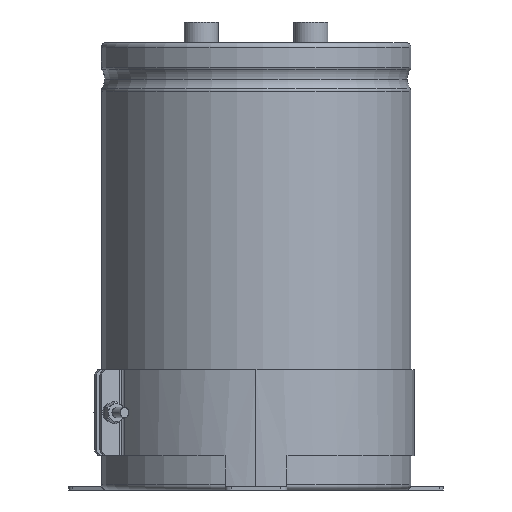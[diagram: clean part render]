
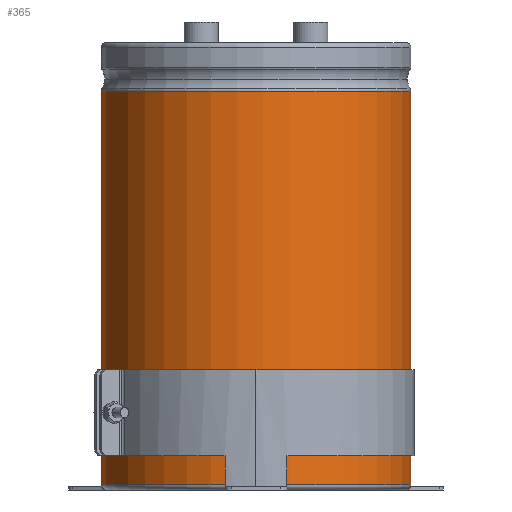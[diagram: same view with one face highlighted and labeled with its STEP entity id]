
A CAD part, left-side view. The second image highlights one B-rep face of the part: STEP entity #365.
In plain terms, the highlighted cylindrical face has radius 45 mm (diameter 90 mm), a partial arc.
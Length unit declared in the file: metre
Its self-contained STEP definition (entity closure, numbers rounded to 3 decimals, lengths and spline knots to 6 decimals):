
#365=ADVANCED_FACE('0:237',(#597),#598,.T.);
#597=FACE_OUTER_BOUND('',#1082,.T.);
#598=CYLINDRICAL_SURFACE('',#1083,0.045);
#1082=EDGE_LOOP('',(#2038,#2039,#2040,#2041));
#1083=AXIS2_PLACEMENT_3D('',#2042,#2043,#2044);
#2038=ORIENTED_EDGE('',*,*,#2995,.T.);
#2039=ORIENTED_EDGE('',*,*,#3004,.T.);
#2040=ORIENTED_EDGE('',*,*,#3006,.T.);
#2041=ORIENTED_EDGE('',*,*,#3007,.F.);
#2042=CARTESIAN_POINT('',(0.0,0.0,0.0));
#2043=DIRECTION('',(-0.0,0.0,1.0));
#2044=DIRECTION('',(0.0,1.0,0.0));
#2995=EDGE_CURVE('',#5626,#5634,#5635,.T.);
#3004=EDGE_CURVE('0:309',#5634,#5645,#5647,.T.);
#3006=EDGE_CURVE('0:312',#5645,#5649,#5650,.T.);
#3007=EDGE_CURVE('0:315',#5626,#5649,#5651,.T.);
#5626=VERTEX_POINT('',#6662);
#5634=VERTEX_POINT('',#6670);
#5635=LINE('',#6671,#6672);
#5645=VERTEX_POINT('',#6683);
#5647=CIRCLE('',#6685,0.045);
#5649=VERTEX_POINT('',#6687);
#5650=LINE('',#6688,#6689);
#5651=CIRCLE('',#6690,0.045);
#6662=CARTESIAN_POINT('',(0.,-0.045,0.0015));
#6670=CARTESIAN_POINT('',(0.,-0.045,0.1159));
#6671=CARTESIAN_POINT('',(0.,-0.045,0.0587));
#6672=VECTOR('',#8209,1.0);
#6683=CARTESIAN_POINT('',(-0.004,0.044822,0.1159));
#6685=AXIS2_PLACEMENT_3D('',#8226,#8227,#8228);
#6687=CARTESIAN_POINT('',(-0.004,0.044822,0.0015));
#6688=CARTESIAN_POINT('',(-0.004,0.044822,0.1159));
#6689=VECTOR('',#8229,0.001);
#6690=AXIS2_PLACEMENT_3D('',#8230,#8231,#8232);
#8209=DIRECTION('',(0.0,0.0,1.0));
#8226=CARTESIAN_POINT('',(0.0,0.0,0.1159));
#8227=DIRECTION('',(0.0,0.0,-1.0));
#8228=DIRECTION('',(0.0,1.0,0.0));
#8229=DIRECTION('',(0.0,0.0,-1.0));
#8230=CARTESIAN_POINT('',(0.0,0.0,0.0015));
#8231=DIRECTION('',(0.0,0.0,-1.0));
#8232=DIRECTION('',(0.0,1.0,0.0));
